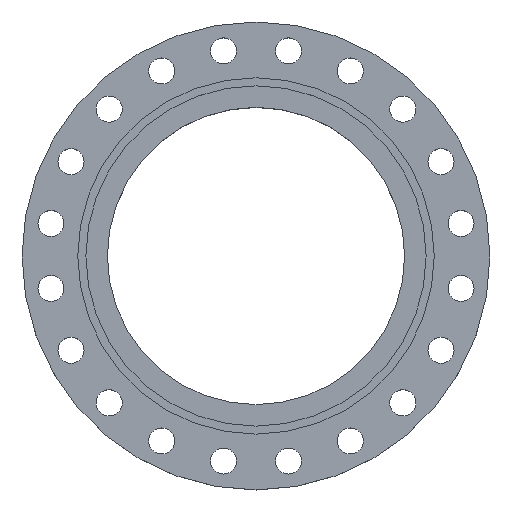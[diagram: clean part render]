
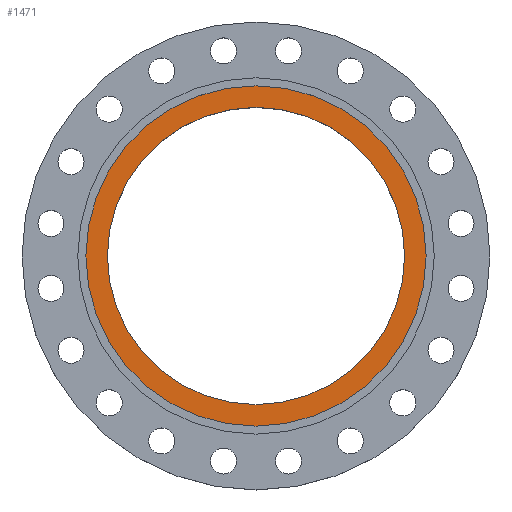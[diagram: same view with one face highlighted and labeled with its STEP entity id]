
A CAD part, top view. The second image highlights one B-rep face of the part: STEP entity #1471.
In plain terms, the highlighted planar face has unit normal (0, 0, 1).
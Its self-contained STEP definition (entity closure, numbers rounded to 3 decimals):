
#1 = VERTEX_POINT ( 'NONE', #883 ) ;
#24 = CIRCLE ( 'NONE', #1257, 274.5 ) ;
#120 = DIRECTION ( 'NONE',  ( 1., 0., 0. ) ) ;
#134 = CARTESIAN_POINT ( 'NONE',  ( 239.8, 0., -5.5 ) ) ;
#155 = DIRECTION ( 'NONE',  ( 1., 0., 0. ) ) ;
#169 = CIRCLE ( 'NONE', #1390, 274.5 ) ;
#206 = EDGE_CURVE ( 'NONE', #240, #215, #207, .T. ) ;
#207 = CIRCLE ( 'NONE', #228, 239.8 ) ;
#215 = VERTEX_POINT ( 'NONE', #1299 ) ;
#228 = AXIS2_PLACEMENT_3D ( 'NONE', #954, #1598, #120 ) ;
#240 = VERTEX_POINT ( 'NONE', #134 ) ;
#321 = PLANE ( 'NONE',  #1156 ) ;
#463 = DIRECTION ( 'NONE',  ( 1., 0., 0. ) ) ;
#528 = CIRCLE ( 'NONE', #1709, 239.8 ) ;
#538 = CARTESIAN_POINT ( 'NONE',  ( 0., 0., -5.5 ) ) ;
#578 = CARTESIAN_POINT ( 'NONE',  ( 0., 0., -5.5 ) ) ;
#860 = ORIENTED_EDGE ( 'NONE', *, *, #1380, .T. ) ;
#883 = CARTESIAN_POINT ( 'NONE',  ( -274.5, 0., -5.5 ) ) ;
#899 = CARTESIAN_POINT ( 'NONE',  ( 274.5, 0., -5.5 ) ) ;
#954 = CARTESIAN_POINT ( 'NONE',  ( 0., 0., -5.5 ) ) ;
#996 = CARTESIAN_POINT ( 'NONE',  ( 274.5, 0., -5.5 ) ) ;
#1156 = AXIS2_PLACEMENT_3D ( 'NONE', #996, #1632, #155 ) ;
#1163 = ORIENTED_EDGE ( 'NONE', *, *, #206, .T. ) ;
#1164 = FACE_BOUND ( 'NONE', #1952, .T. ) ;
#1165 = ORIENTED_EDGE ( 'NONE', *, *, #1214, .F. ) ;
#1206 = DIRECTION ( 'NONE',  ( 0., 0., -1. ) ) ;
#1214 = EDGE_CURVE ( 'NONE', #1583, #1, #24, .T. ) ;
#1243 = DIRECTION ( 'NONE',  ( 0., 0., -1. ) ) ;
#1257 = AXIS2_PLACEMENT_3D ( 'NONE', #538, #1206, #1831 ) ;
#1291 = CARTESIAN_POINT ( 'NONE',  ( 0., 0., -5.5 ) ) ;
#1299 = CARTESIAN_POINT ( 'NONE',  ( -239.8, 0., -5.5 ) ) ;
#1380 = EDGE_CURVE ( 'NONE', #215, #240, #528, .T. ) ;
#1390 = AXIS2_PLACEMENT_3D ( 'NONE', #578, #1243, #1866 ) ;
#1471 = ADVANCED_FACE ( 'NONE', ( #1164, #1792 ), #321, .T. ) ;
#1490 = ORIENTED_EDGE ( 'NONE', *, *, #1617, .F. ) ;
#1583 = VERTEX_POINT ( 'NONE', #899 ) ;
#1598 = DIRECTION ( 'NONE',  ( 0., 0., -1. ) ) ;
#1617 = EDGE_CURVE ( 'NONE', #1, #1583, #169, .T. ) ;
#1632 = DIRECTION ( 'NONE',  ( 0., 0., 1. ) ) ;
#1654 = EDGE_LOOP ( 'NONE', ( #1490, #1165 ) ) ;
#1709 = AXIS2_PLACEMENT_3D ( 'NONE', #1291, #1909, #463 ) ;
#1792 = FACE_OUTER_BOUND ( 'NONE', #1654, .T. ) ;
#1831 = DIRECTION ( 'NONE',  ( -1., 0., 0. ) ) ;
#1866 = DIRECTION ( 'NONE',  ( -1., 0., 0. ) ) ;
#1909 = DIRECTION ( 'NONE',  ( 0., 0., -1. ) ) ;
#1952 = EDGE_LOOP ( 'NONE', ( #860, #1163 ) ) ;
